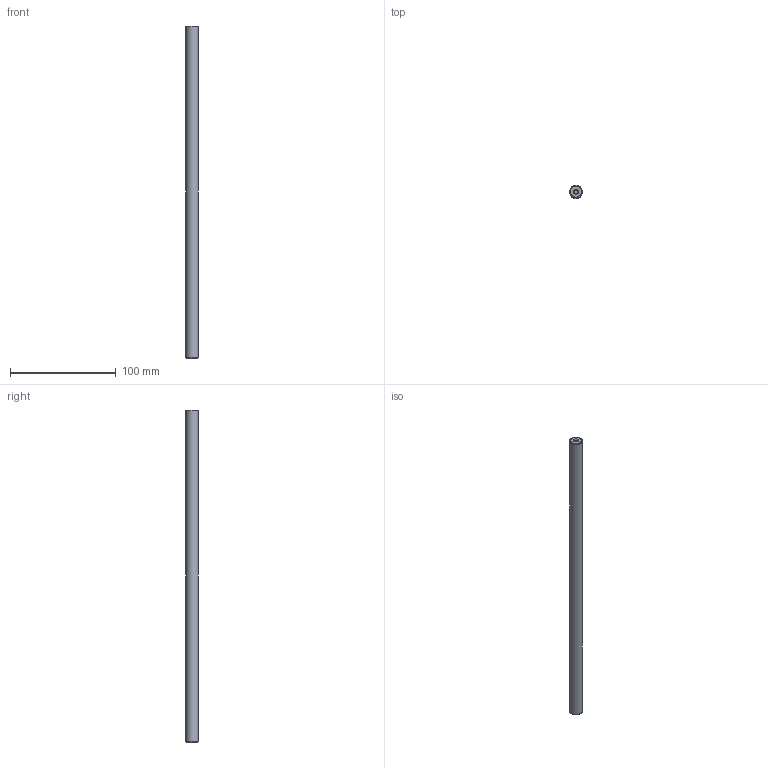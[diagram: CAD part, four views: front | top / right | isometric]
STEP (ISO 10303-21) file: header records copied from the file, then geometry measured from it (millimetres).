
FILE_DESCRIPTION(/* description */ (''),/* implementation_level */ '2;1');
FILE_NAME(/* name */ 'LM2070-220-Rod.stp',/* time_stamp */ '2017-09-06T14:12:12+02:00',/* author */ ('DR. FRITZ FAULHABER GmbH & Co. KG'),/* organization */ ('DR. FRITZ FAULHABER GmbH & Co. KG'),/* preprocessor_version */ 'ST-DEVELOPER v16',/* originating_system */ 'SIEMENS PLM Software NX 10.0',/* authorisation */ '');
FILE_SCHEMA (('AUTOMOTIVE_DESIGN { 1 0 10303 214 3 1 1 1 }'));
Length unit declared in the file: millimetre
Products named in the file (1): Alle_Motoren
Bounding box: 12 x 12 x 314 mm (x, y, z)
Volume: 35350.5 mm3; surface area: 12194.8 mm2
Topology: 1 solids, 1 shells, 11 faces, 20 edges, 13 vertices
Faces by surface type: plane 4, cylinder 3, cone 2, torus 2
Full cylindrical faces by diameter (mm): 3.3 x2, 12 x1
Entity records: 238 total; most frequent: DIRECTION 44, CARTESIAN_POINT 32, AXIS2_PLACEMENT_3D 22, EDGE_LOOP 20, ORIENTED_EDGE 20, FACE_BOUND 18, ADVANCED_FACE 11, VERTEX_POINT 10
